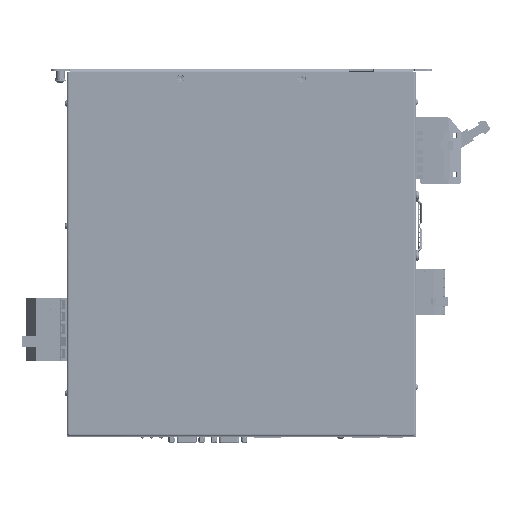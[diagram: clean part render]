
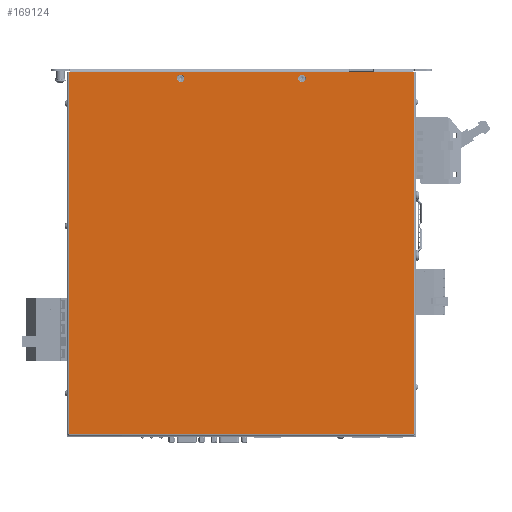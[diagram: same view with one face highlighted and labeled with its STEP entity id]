
A CAD part, top view. The second image highlights one B-rep face of the part: STEP entity #169124.
In plain terms, the highlighted planar face has unit normal (0, 0, 1) as drawn and (0, 1, 0) by its records, which use the part's own axes.
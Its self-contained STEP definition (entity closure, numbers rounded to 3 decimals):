
#4032 = VERTEX_POINT ( 'NONE', #45817 ) ;
#15899 = CARTESIAN_POINT ( 'NONE',  ( 192.9, 152.4, -292.15 ) ) ;
#17134 = EDGE_LOOP ( 'NONE', ( #72075, #168804 ) ) ;
#28176 = EDGE_LOOP ( 'NONE', ( #156406, #302795 ) ) ;
#31524 = DIRECTION ( 'NONE',  ( 0., 1., 0. ) ) ;
#31705 = ORIENTED_EDGE ( 'NONE', *, *, #263569, .F. ) ;
#35159 = VERTEX_POINT ( 'NONE', #15899 ) ;
#35981 = EDGE_CURVE ( 'NONE', #39413, #4032, #267998, .T. ) ;
#36460 = DIRECTION ( 'NONE',  ( 0., -1., 0. ) ) ;
#39413 = VERTEX_POINT ( 'NONE', #187180 ) ;
#43408 = EDGE_CURVE ( 'NONE', #4032, #39413, #160676, .T. ) ;
#45817 = CARTESIAN_POINT ( 'NONE',  ( 92.9, 152.4, -292.15 ) ) ;
#51747 = EDGE_CURVE ( 'NONE', #218051, #214935, #271279, .T. ) ;
#56492 = DIRECTION ( 'NONE',  ( 0., 1., 0. ) ) ;
#58782 = DIRECTION ( 'NONE',  ( 0., 0., -1. ) ) ;
#61631 = ORIENTED_EDGE ( 'NONE', *, *, #51747, .T. ) ;
#71049 = LINE ( 'NONE', #144692, #129739 ) ;
#72075 = ORIENTED_EDGE ( 'NONE', *, *, #118744, .F. ) ;
#74372 = EDGE_CURVE ( 'NONE', #223360, #35159, #123657, .T. ) ;
#78681 = CARTESIAN_POINT ( 'NONE',  ( 192.9, 152.4, -298.35 ) ) ;
#81097 = FACE_OUTER_BOUND ( 'NONE', #278037, .T. ) ;
#81998 = AXIS2_PLACEMENT_3D ( 'NONE', #205071, #163828, #316284 ) ;
#83826 = DIRECTION ( 'NONE',  ( -1., 0., 0. ) ) ;
#105061 = ORIENTED_EDGE ( 'NONE', *, *, #253157, .T. ) ;
#118744 = EDGE_CURVE ( 'NONE', #35159, #223360, #156626, .T. ) ;
#123657 = CIRCLE ( 'NONE', #298698, 3.1 ) ;
#129300 = CARTESIAN_POINT ( 'NONE',  ( 1., 152.4, -300.5 ) ) ;
#129739 = VECTOR ( 'NONE', #170347, 1000. ) ;
#130785 = CARTESIAN_POINT ( 'NONE',  ( 92.9, 152.4, -295.25 ) ) ;
#144692 = CARTESIAN_POINT ( 'NONE',  ( 284.8, 152.4, -2. ) ) ;
#156406 = ORIENTED_EDGE ( 'NONE', *, *, #43408, .F. ) ;
#156626 = CIRCLE ( 'NONE', #265952, 3.1 ) ;
#159053 = EDGE_CURVE ( 'NONE', #214935, #261780, #331478, .T. ) ;
#160676 = CIRCLE ( 'NONE', #226335, 3.1 ) ;
#163828 = DIRECTION ( 'NONE',  ( 0., 1., 0. ) ) ;
#166033 = VECTOR ( 'NONE', #256119, 1000. ) ;
#166482 = CARTESIAN_POINT ( 'NONE',  ( 0., 152.4, 0. ) ) ;
#168804 = ORIENTED_EDGE ( 'NONE', *, *, #74372, .F. ) ;
#169124 = ADVANCED_FACE ( 'NONE', ( #209473, #288245, #81097 ), #185455, .F. ) ;
#170347 = DIRECTION ( 'NONE',  ( 0., 0., -1. ) ) ;
#173654 = CARTESIAN_POINT ( 'NONE',  ( 1., 152.4, -2. ) ) ;
#185455 = PLANE ( 'NONE',  #336117 ) ;
#185573 = DIRECTION ( 'NONE',  ( 0., 0., 1. ) ) ;
#186584 = DIRECTION ( 'NONE',  ( 0., 0., 1. ) ) ;
#187180 = CARTESIAN_POINT ( 'NONE',  ( 92.9, 152.4, -298.35 ) ) ;
#199334 = VECTOR ( 'NONE', #83826, 1000. ) ;
#199801 = CARTESIAN_POINT ( 'NONE',  ( 284.8, 152.4, -300.5 ) ) ;
#205071 = CARTESIAN_POINT ( 'NONE',  ( 92.9, 152.4, -295.25 ) ) ;
#209473 = FACE_BOUND ( 'NONE', #17134, .T. ) ;
#210550 = CARTESIAN_POINT ( 'NONE',  ( 284.8, 152.4, -2. ) ) ;
#212300 = CARTESIAN_POINT ( 'NONE',  ( 192.9, 152.4, -295.25 ) ) ;
#213860 = LINE ( 'NONE', #318305, #199334 ) ;
#214935 = VERTEX_POINT ( 'NONE', #303060 ) ;
#218051 = VERTEX_POINT ( 'NONE', #199801 ) ;
#223088 = ORIENTED_EDGE ( 'NONE', *, *, #159053, .T. ) ;
#223360 = VERTEX_POINT ( 'NONE', #78681 ) ;
#226335 = AXIS2_PLACEMENT_3D ( 'NONE', #130785, #31524, #185573 ) ;
#253157 = EDGE_CURVE ( 'NONE', #270848, #218051, #71049, .T. ) ;
#256119 = DIRECTION ( 'NONE',  ( 0., 0., 1. ) ) ;
#257212 = DIRECTION ( 'NONE',  ( 0., 0., 1. ) ) ;
#261780 = VERTEX_POINT ( 'NONE', #173654 ) ;
#263569 = EDGE_CURVE ( 'NONE', #270848, #261780, #213860, .T. ) ;
#265952 = AXIS2_PLACEMENT_3D ( 'NONE', #281208, #310235, #257212 ) ;
#267998 = CIRCLE ( 'NONE', #81998, 3.1 ) ;
#270848 = VERTEX_POINT ( 'NONE', #210550 ) ;
#271279 = LINE ( 'NONE', #298626, #280345 ) ;
#278037 = EDGE_LOOP ( 'NONE', ( #105061, #61631, #223088, #31705 ) ) ;
#280345 = VECTOR ( 'NONE', #291954, 1000. ) ;
#281208 = CARTESIAN_POINT ( 'NONE',  ( 192.9, 152.4, -295.25 ) ) ;
#288245 = FACE_BOUND ( 'NONE', #28176, .T. ) ;
#291954 = DIRECTION ( 'NONE',  ( -1., 0., 0. ) ) ;
#298626 = CARTESIAN_POINT ( 'NONE',  ( 0., 152.4, -300.5 ) ) ;
#298698 = AXIS2_PLACEMENT_3D ( 'NONE', #212300, #56492, #186584 ) ;
#302795 = ORIENTED_EDGE ( 'NONE', *, *, #35981, .F. ) ;
#303060 = CARTESIAN_POINT ( 'NONE',  ( 1., 152.4, -300.5 ) ) ;
#310235 = DIRECTION ( 'NONE',  ( 0., 1., 0. ) ) ;
#316284 = DIRECTION ( 'NONE',  ( 0., 0., 1. ) ) ;
#318305 = CARTESIAN_POINT ( 'NONE',  ( 0., 152.4, -2. ) ) ;
#331478 = LINE ( 'NONE', #129300, #166033 ) ;
#336117 = AXIS2_PLACEMENT_3D ( 'NONE', #166482, #36460, #58782 ) ;
